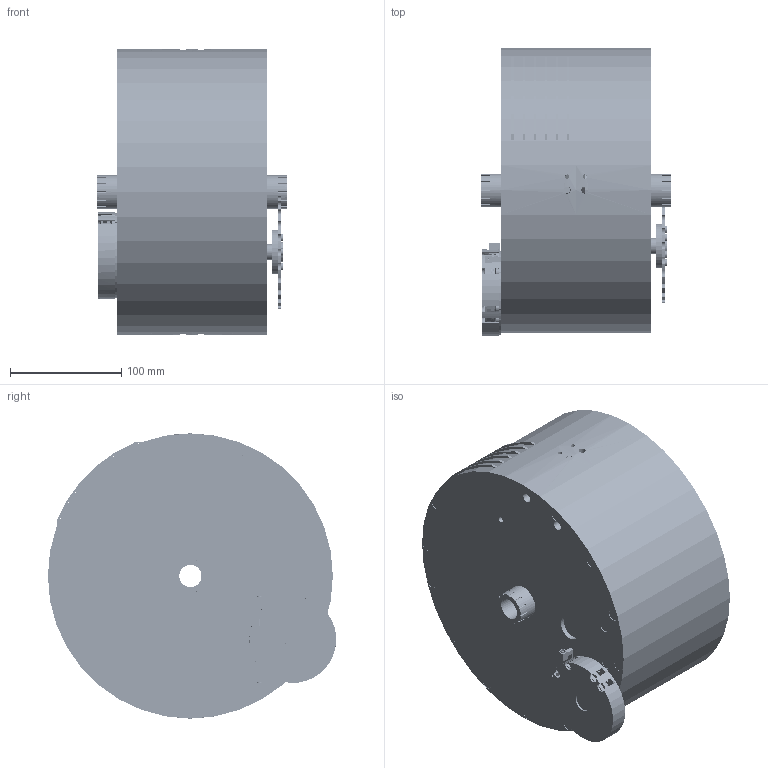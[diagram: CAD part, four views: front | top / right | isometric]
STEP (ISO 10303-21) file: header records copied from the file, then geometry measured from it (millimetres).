
FILE_DESCRIPTION(('Open CASCADE Model'),'2;1');
FILE_NAME('R12_R7_BASE_GEAR09','2026-09-28T18:34:32',('Author'),( 'Open CASCADE'),'Open CASCADE STEP processor 7.9','build123d', 'Unknown');
FILE_SCHEMA(('AUTOMOTIVE_DESIGN { 1 0 10303 214 1 1 1 1 }'));
Length unit declared in the file: millimetre
Products named in the file (273): R12_R7_BASE_GEAR09; left_housing_R7_drive_mount; motor_cooling_fin_1; motor_cooling_fin_2; motor_cooling_fin_3; motor_cooling_fin_4; motor_cooling_fin_5; motor_cooling_fin_6; crank_spindle; power_combining_shaft; input_shaft; intermediate_shaft_1_R6_B12_local_segment; intermediate_shaft_2; torque_sensor_envelope; shift_encoder_envelope; motor_cable_gland; crank_one_way_clutch; motor_one_way_clutch; combining_to_input_key; A1_driver_27T_key; A2_driver_29T_key; A3_driver_31T_key; A4_driver_33T_key; B3_driver_56T_key; reduction_1_pinion_18T_key; reduction_1_gear_108T_key; reduction_2_pinion_18T_key; shift_drum_stop_ring_drive_key; combining_support_left; combining_support_right; A1_journal_bearing; A2_journal_bearing; A3_journal_bearing; A4_journal_bearing; O_left_bearing; O_right_bearing; I_left_bearing; I_right_bearing; U_left_bearing; U_right_bearing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
Assembly tree (272 placements, depth 2):
  R12_R7_BASE_GEAR09
    left_housing_R7_drive_mount
    motor_cooling_fin_1
    motor_cooling_fin_2
    motor_cooling_fin_3
    motor_cooling_fin_4
    motor_cooling_fin_5
    motor_cooling_fin_6
    crank_spindle
    power_combining_shaft
    input_shaft
    intermediate_shaft_1_R6_B12_local_segment
    intermediate_shaft_2
    torque_sensor_envelope
    shift_encoder_envelope
    motor_cable_gland
    crank_one_way_clutch
    motor_one_way_clutch
    combining_to_input_key
    A1_driver_27T_key
    A2_driver_29T_key
    A3_driver_31T_key
    A4_driver_33T_key
    B3_driver_56T_key
    reduction_1_pinion_18T_key
    reduction_1_gear_108T_key
    reduction_2_pinion_18T_key
    shift_drum_stop_ring_drive_key
    combining_support_left
    combining_support_right
    A1_journal_bearing
    A2_journal_bearing
    A3_journal_bearing
    A4_journal_bearing
    O_left_bearing
    O_right_bearing
    I_left_bearing
    I_right_bearing
    U_left_bearing
    U_right_bearing
    N_left_bearing
    N_right_bearing
    drum_left_bearing
    drum_right_bearing
    dog_clutch_A12
    dog_clutch_A34
    shift_fork_1
    shift_fork_2
    A1_driver_27T
    A1_loose_27T
    A2_driver_29T
    A2_loose_25T
    A3_driver_31T
    A3_loose_23T
    A4_driver_33T
    A4_loose_21T
    A2_right_thrust_washer
    A3_left_thrust_washer
    A4_right_thrust_washer
    N_removable_right_spacer
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Bounding box: 170 x 258.94 x 256 mm (x, y, z)
Volume: 2301528.7 mm3; surface area: 1026049.7 mm2
Topology: 272 solids, 272 shells, 8381 faces, 21967 edges, 14466 vertices
Faces by surface type: plane 3768, cylinder 2835, extrusion 1372, cone 162, torus 150, sphere 68, bspline 26
Full cylindrical faces by diameter (mm): 0.7 x3, 0.9 x4, 1 x1, 1.1 x8, 1.2 x1, 1.3 x3, 1.5 x1, 1.6 x5, 1.98 x3, 2 x11, 2.02 x8, 2.1 x4, 2.15 x3, 2.2 x7, 2.4 x2, 2.46 x4, 2.5 x6, 2.6 x2, 2.7 x4, 2.8 x1, 2.96 x4, 3 x7, 3.2 x10, 3.24 x2, 3.3 x12, 3.4 x2, 3.5 x1, 3.7 x1, 3.8 x1, 3.9 x8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
Entity records: 1058495 total; most frequent: CARTESIAN_POINT 610868, DIRECTION 79663, VECTOR 46352, LINE 44980, ORIENTED_EDGE 43816, PCURVE 43816, DEFINITIONAL_REPRESENTATION 43816, EDGE_CURVE 21908
